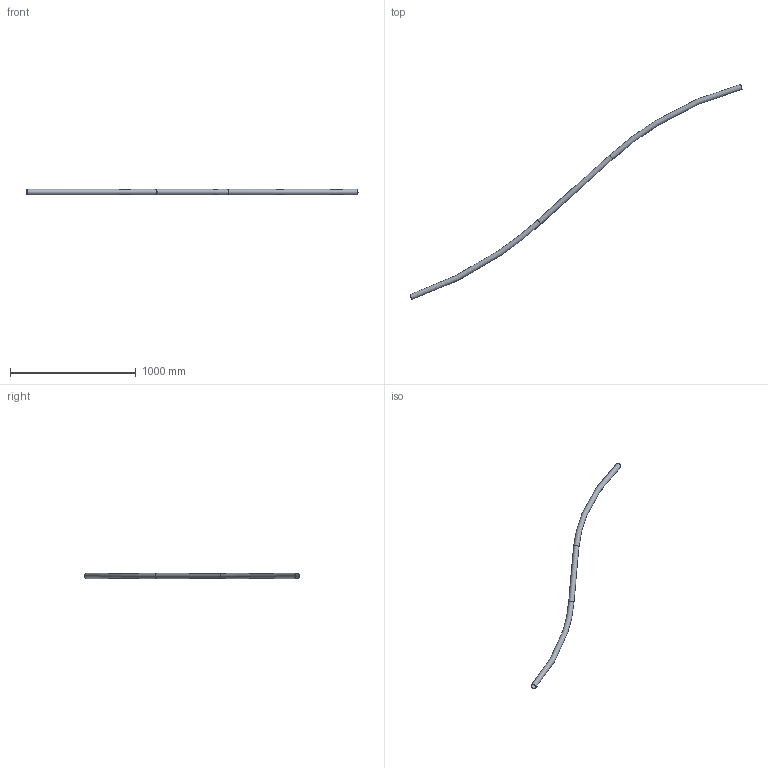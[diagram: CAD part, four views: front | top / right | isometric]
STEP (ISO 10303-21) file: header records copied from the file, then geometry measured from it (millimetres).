
FILE_DESCRIPTION(/* description */ (''),/* implementation_level */ '2;1');
FILE_NAME(/* name */ 'Pos162-Constructie buis 42.4x2.6-S235JRH-3st',/* time_stamp */ '2024-08-06T13:37:44+02:00',/* author */ (''),/* organization */ (''),/* preprocessor_version */ 'ST-DEVELOPER v16.5',/* originating_system */ 'HiCAD 2024 2901.2 Build 361',/* authorisation */ '');
FILE_SCHEMA (('AUTOMOTIVE_DESIGN { 1 0 10303 214 1 1 1 1 }'));
Length unit declared in the file: millimetre
Products named in the file (1): Pos162-Constructie buis 42.4x2.6-S235JRH-3st
Bounding box: 2635 x 1708.86 x 42.4 mm (x, y, z)
Volume: 1021607.6 mm3; surface area: 786502.2 mm2
Topology: 1 solids, 1 shells, 8 faces, 16 edges, 10 vertices
Faces by surface type: torus 4, cylinder 2, plane 2
Full cylindrical faces by diameter (mm): 37.2 x1, 42.4 x1
Entity records: 266 total; most frequent: DIRECTION 32, CARTESIAN_POINT 24, PRESENTATION_STYLE_ASSIGNMENT 17, COLOUR_RGB 17, DRAUGHTING_PRE_DEFINED_CURVE_FONT 16, CURVE_STYLE 16, OVER_RIDING_STYLED_ITEM 16, ORIENTED_EDGE 16
